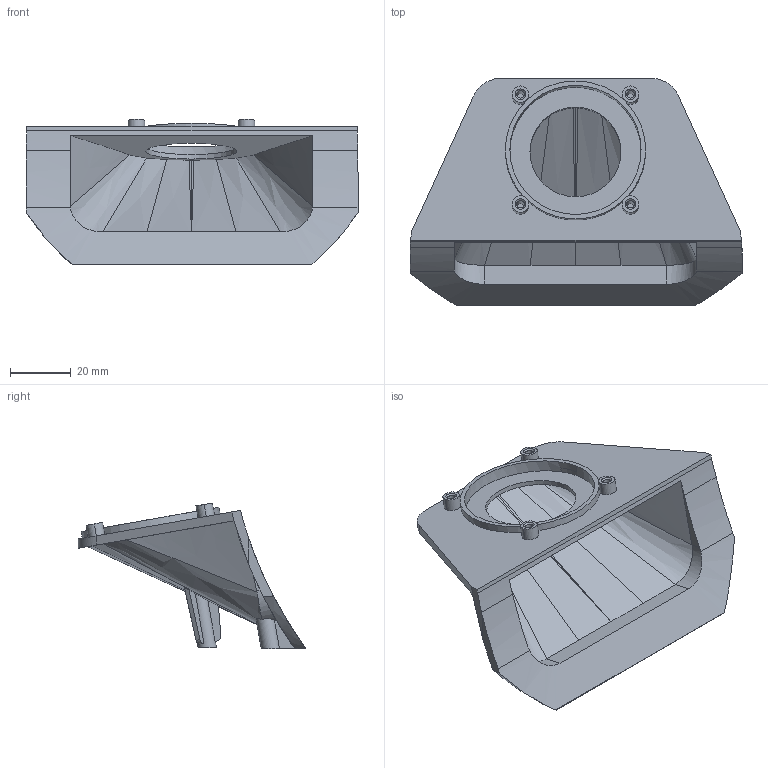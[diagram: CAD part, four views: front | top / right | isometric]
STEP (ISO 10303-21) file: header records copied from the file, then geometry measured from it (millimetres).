
FILE_DESCRIPTION((''),'2;1');
FILE_NAME('LABA-ZJ','2025-07-12T10:40:23',('Administrator'),(''),'CREO PARAMETRIC BY PTC INC, 2022073','CREO PARAMETRIC BY PTC INC, 2022073','');
FILE_SCHEMA(('CONFIG_CONTROL_DESIGN'));
Length unit declared in the file: millimetre
Products named in the file (1): LABA-ZJ
Bounding box: 109.43 x 74.94 x 48.08 mm (x, y, z)
Volume: 32921.2 mm3; surface area: 27337.6 mm2
Topology: 1 solids, 1 shells, 162 faces, 447 edges, 297 vertices
Faces by surface type: cylinder 60, plane 59, bspline 32, cone 8, extrusion 3
Entity records: 7617 total; most frequent: CARTESIAN_POINT 3720, ORIENTED_EDGE 894, DIRECTION 664, EDGE_CURVE 447, VERTEX_POINT 297, AXIS2_PLACEMENT_3D 237, VECTOR 190, LINE 187
